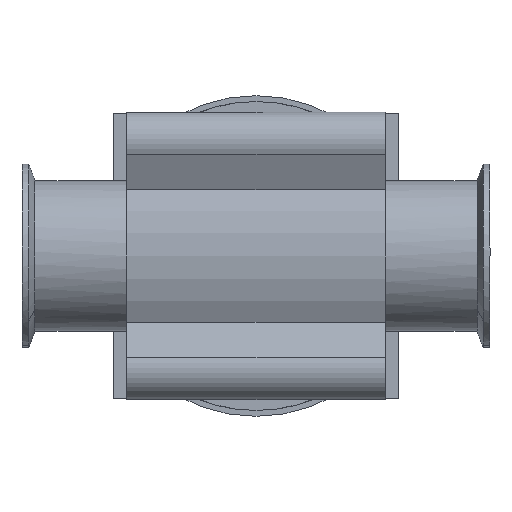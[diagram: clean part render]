
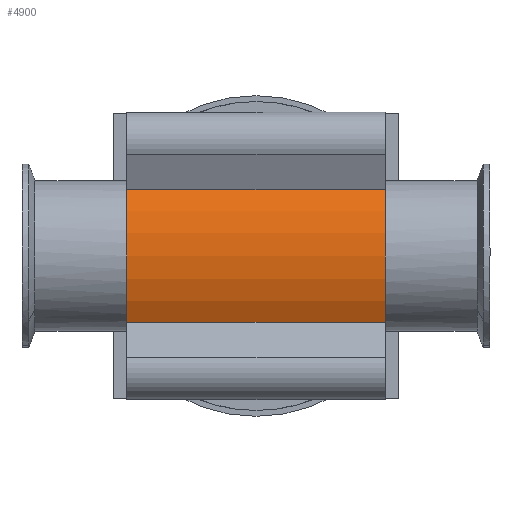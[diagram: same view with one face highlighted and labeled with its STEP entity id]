
A CAD part, front view. The second image highlights one B-rep face of the part: STEP entity #4900.
In plain terms, the highlighted cylindrical face has radius 59.5 mm (diameter 119 mm), a partial arc.
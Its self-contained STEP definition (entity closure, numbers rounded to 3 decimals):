
#750=CARTESIAN_POINT('',(-17.336,-98.,56.919));
#760=VERTEX_POINT('',#750);
#810=CARTESIAN_POINT('',(-17.336,-86.,
56.919));
#820=DIRECTION('',(0.,-1.,0.));
#830=VECTOR('',#820,1.);
#840=LINE('',#810,#830);
#850=CARTESIAN_POINT('',(-17.336,11.,56.919));
#860=VERTEX_POINT('',#850);
#870=EDGE_CURVE('',#860,#760,#840,.T.);
#1110=CARTESIAN_POINT('',(0.,-98.,
0.));
#1120=DIRECTION('',(0.,-1.,0.));
#1130=DIRECTION('',(-1.,0.,0.));
#1140=AXIS2_PLACEMENT_3D('',#1110,#1120,#1130);
#1150=CIRCLE('',#1140,59.5);
#1970=CARTESIAN_POINT('',(-56.919,-98.,17.336));
#1980=VERTEX_POINT('',#1970);
#2010=EDGE_CURVE('',#760,#1980,#1150,.T.);
#4660=CARTESIAN_POINT('',(0.,-1.,0.));
#4670=DIRECTION('',(0.,1.,0.));
#4680=DIRECTION('',(0.,0.,1.));
#4690=AXIS2_PLACEMENT_3D('',#4660,#4670,#4680);
#4700=CYLINDRICAL_SURFACE('',#4690,59.5);
#4710=ORIENTED_EDGE('',*,*,#2010,.F.);
#4720=CARTESIAN_POINT('',(-56.919,-1.,17.336));
#4730=DIRECTION('',(0.,1.,0.));
#4740=VECTOR('',#4730,1.);
#4750=LINE('',#4720,#4740);
#4760=CARTESIAN_POINT('',(-56.919,11.,17.336));
#4770=VERTEX_POINT('',#4760);
#4780=EDGE_CURVE('',#1980,#4770,#4750,.T.);
#4790=ORIENTED_EDGE('',*,*,#4780,.F.);
#4800=CARTESIAN_POINT('',(0.,11.,0.));
#4810=DIRECTION('',(0.,1.,0.));
#4820=DIRECTION('',(0.,0.,1.));
#4830=AXIS2_PLACEMENT_3D('',#4800,#4810,#4820);
#4840=CIRCLE('',#4830,59.5);
#4850=EDGE_CURVE('',#4770,#860,#4840,.T.);
#4860=ORIENTED_EDGE('',*,*,#4850,.F.);
#4870=ORIENTED_EDGE('',*,*,#870,.F.);
#4880=EDGE_LOOP('',(#4870,#4860,#4790,#4710));
#4890=FACE_OUTER_BOUND('',#4880,.T.);
#4900=ADVANCED_FACE('',(#4890),#4700,.T.);
